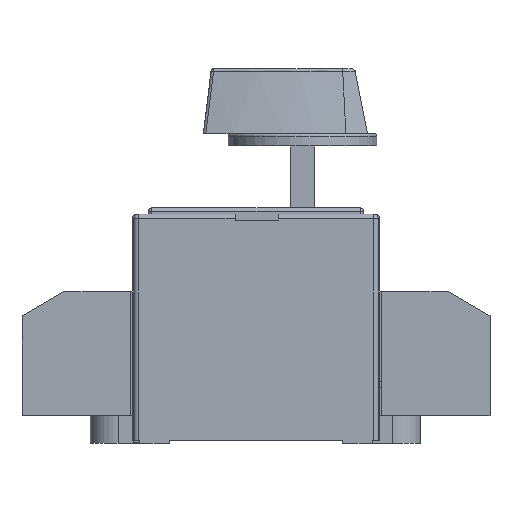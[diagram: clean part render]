
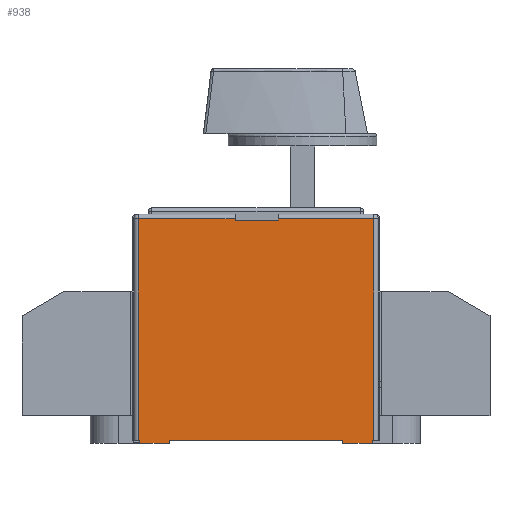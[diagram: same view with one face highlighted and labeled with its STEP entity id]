
A CAD part, left-side view. The second image highlights one B-rep face of the part: STEP entity #938.
In plain terms, the highlighted planar face has unit normal (-1, 0, 0).
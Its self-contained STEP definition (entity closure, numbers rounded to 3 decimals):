
#353=PLANE('',#10040);
#938=ADVANCED_FACE('',(#1553),#353,.F.);
#1553=FACE_OUTER_BOUND('',#2106,.T.);
#2106=EDGE_LOOP('',(#6354,#6355,#6356,#6357,#6358,#6359,#6360,#6361,#6362,
#6363,#6364,#6365,#6366,#6367,#6368,#6369));
#2732=LINE('',#14415,#3746);
#2781=LINE('',#14532,#3795);
#2783=LINE('',#14538,#3797);
#2862=LINE('',#14887,#3876);
#2879=LINE('',#14974,#3893);
#2923=LINE('',#15072,#3937);
#2928=LINE('',#15084,#3942);
#2930=LINE('',#15087,#3944);
#2936=LINE('',#15100,#3950);
#3102=LINE('',#15436,#4116);
#3108=LINE('',#15447,#4122);
#3109=LINE('',#15451,#4123);
#3110=LINE('',#15453,#4124);
#3111=LINE('',#15455,#4125);
#3112=LINE('',#15456,#4126);
#3113=LINE('',#15457,#4127);
#3746=VECTOR('',#11510,1.);
#3795=VECTOR('',#11595,1.);
#3797=VECTOR('',#11601,1.);
#3876=VECTOR('',#11918,1.);
#3893=VECTOR('',#12035,1.);
#3937=VECTOR('',#12133,1.);
#3942=VECTOR('',#12140,1.);
#3944=VECTOR('',#12144,1.);
#3950=VECTOR('',#12152,1.);
#4116=VECTOR('',#12450,1.);
#4122=VECTOR('',#12462,1.);
#4123=VECTOR('',#12467,1.);
#4124=VECTOR('',#12468,1.);
#4125=VECTOR('',#12469,1.);
#4126=VECTOR('',#12470,1.);
#4127=VECTOR('',#12471,1.);
#6354=ORIENTED_EDGE('',*,*,#8933,.F.);
#6355=ORIENTED_EDGE('',*,*,#8684,.T.);
#6356=ORIENTED_EDGE('',*,*,#8486,.T.);
#6357=ORIENTED_EDGE('',*,*,#8430,.F.);
#6358=ORIENTED_EDGE('',*,*,#8489,.T.);
#6359=ORIENTED_EDGE('',*,*,#8641,.T.);
#6360=ORIENTED_EDGE('',*,*,#8935,.T.);
#6361=ORIENTED_EDGE('',*,*,#8936,.T.);
#6362=ORIENTED_EDGE('',*,*,#8937,.F.);
#6363=ORIENTED_EDGE('',*,*,#8734,.F.);
#6364=ORIENTED_EDGE('',*,*,#8739,.T.);
#6365=ORIENTED_EDGE('',*,*,#8938,.T.);
#6366=ORIENTED_EDGE('',*,*,#8747,.F.);
#6367=ORIENTED_EDGE('',*,*,#8741,.F.);
#6368=ORIENTED_EDGE('',*,*,#8927,.T.);
#6369=ORIENTED_EDGE('',*,*,#8939,.T.);
#7356=VERTEX_POINT('',#14414);
#7357=VERTEX_POINT('',#14416);
#7403=VERTEX_POINT('',#14533);
#7405=VERTEX_POINT('',#14539);
#7512=VERTEX_POINT('',#14882);
#7513=VERTEX_POINT('',#14886);
#7561=VERTEX_POINT('',#15073);
#7562=VERTEX_POINT('',#15074);
#7566=VERTEX_POINT('',#15083);
#7567=VERTEX_POINT('',#15088);
#7568=VERTEX_POINT('',#15089);
#7571=VERTEX_POINT('',#15097);
#7676=VERTEX_POINT('',#15435);
#7679=VERTEX_POINT('',#15448);
#7680=VERTEX_POINT('',#15452);
#7681=VERTEX_POINT('',#15454);
#8430=EDGE_CURVE('',#7356,#7357,#2732,.T.);
#8486=EDGE_CURVE('',#7403,#7357,#2781,.T.);
#8489=EDGE_CURVE('',#7356,#7405,#2783,.T.);
#8641=EDGE_CURVE('',#7405,#7513,#2862,.T.);
#8684=EDGE_CURVE('',#7512,#7403,#2879,.T.);
#8734=EDGE_CURVE('',#7561,#7562,#2923,.T.);
#8739=EDGE_CURVE('',#7561,#7566,#2928,.T.);
#8741=EDGE_CURVE('',#7567,#7568,#2930,.T.);
#8747=EDGE_CURVE('',#7568,#7571,#2936,.T.);
#8927=EDGE_CURVE('',#7567,#7676,#3102,.T.);
#8933=EDGE_CURVE('',#7512,#7679,#3108,.T.);
#8935=EDGE_CURVE('',#7513,#7680,#3109,.T.);
#8936=EDGE_CURVE('',#7680,#7681,#3110,.T.);
#8937=EDGE_CURVE('',#7562,#7681,#3111,.T.);
#8938=EDGE_CURVE('',#7566,#7571,#3112,.T.);
#8939=EDGE_CURVE('',#7676,#7679,#3113,.T.);
#10040=AXIS2_PLACEMENT_3D('',#15458,#12472,#12473);
#11510=DIRECTION('',(0.,-1.,0.));
#11595=DIRECTION('',(0.,0.,-1.));
#11601=DIRECTION('',(0.,0.,1.));
#11918=DIRECTION('',(0.,1.,0.));
#12035=DIRECTION('',(0.,1.,0.));
#12133=DIRECTION('',(0.,1.,0.));
#12140=DIRECTION('',(0.,0.,1.));
#12144=DIRECTION('',(0.,1.,0.));
#12152=DIRECTION('',(0.,0.,1.));
#12450=DIRECTION('',(0.,0.,1.));
#12462=DIRECTION('',(0.,0.,-1.));
#12467=DIRECTION('',(0.,0.,-1.));
#12468=DIRECTION('',(0.,-1.,0.));
#12469=DIRECTION('',(0.,0.,1.));
#12470=DIRECTION('',(0.,-1.,0.));
#12471=DIRECTION('',(0.,-1.,0.));
#12472=DIRECTION('',(1.,0.,0.));
#12473=DIRECTION('',(0.,0.,-1.));
#14414=CARTESIAN_POINT('',(-69.,-17.985,67.));
#14415=CARTESIAN_POINT('',(-69.,12.765,67.));
#14416=CARTESIAN_POINT('',(-69.,-31.985,67.));
#14532=CARTESIAN_POINT('',(-69.,-31.985,69.1));
#14533=CARTESIAN_POINT('',(-69.,-31.985,67.6));
#14538=CARTESIAN_POINT('',(-69.,-17.985,69.1));
#14539=CARTESIAN_POINT('',(-69.,-17.985,67.6));
#14882=CARTESIAN_POINT('',(-69.,-62.735,67.6));
#14886=CARTESIAN_POINT('',(-69.,13.265,67.6));
#14887=CARTESIAN_POINT('',(-69.,13.265,67.6));
#14974=CARTESIAN_POINT('',(-69.,13.265,67.6));
#15072=CARTESIAN_POINT('',(-69.,3.265,-4.9));
#15073=CARTESIAN_POINT('',(-69.,3.265,-4.9));
#15074=CARTESIAN_POINT('',(-69.,12.765,-4.9));
#15083=CARTESIAN_POINT('',(-69.,3.265,-3.9));
#15084=CARTESIAN_POINT('',(-69.,3.265,-5.9));
#15087=CARTESIAN_POINT('',(-69.,-62.235,-4.9));
#15088=CARTESIAN_POINT('',(-69.,-62.235,-4.9));
#15089=CARTESIAN_POINT('',(-69.,-52.735,-4.9));
#15097=CARTESIAN_POINT('',(-69.,-52.735,-3.9));
#15100=CARTESIAN_POINT('',(-69.,-52.735,-5.9));
#15435=CARTESIAN_POINT('',(-69.,-62.235,-3.9));
#15436=CARTESIAN_POINT('',(-69.,-62.235,-5.9));
#15447=CARTESIAN_POINT('',(-69.,-62.735,69.1));
#15448=CARTESIAN_POINT('',(-69.,-62.735,-3.9));
#15451=CARTESIAN_POINT('',(-69.,13.265,69.1));
#15452=CARTESIAN_POINT('',(-69.,13.265,-3.9));
#15453=CARTESIAN_POINT('',(-69.,-62.235,-3.9));
#15454=CARTESIAN_POINT('',(-69.,12.765,-3.9));
#15455=CARTESIAN_POINT('',(-69.,12.765,-5.9));
#15456=CARTESIAN_POINT('',(-69.,-62.235,-3.9));
#15457=CARTESIAN_POINT('',(-69.,-62.235,-3.9));
#15458=CARTESIAN_POINT('',(-69.,-62.235,69.1));
